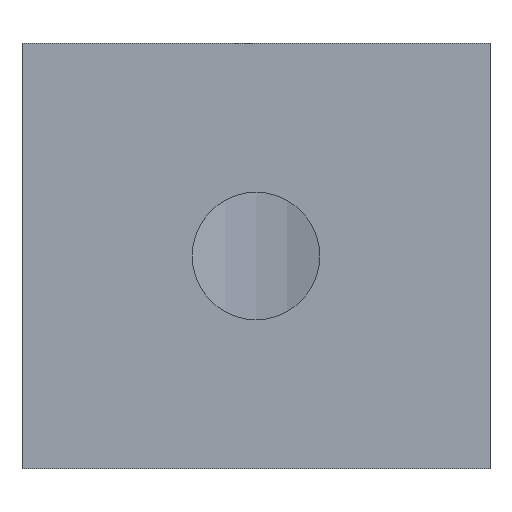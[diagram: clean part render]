
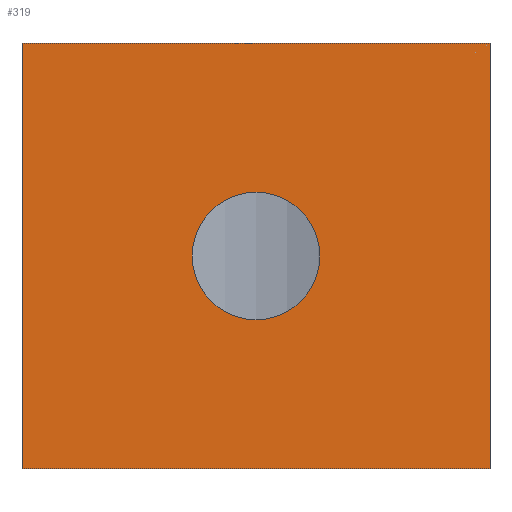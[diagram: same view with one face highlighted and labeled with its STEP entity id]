
A CAD part, front view. The second image highlights one B-rep face of the part: STEP entity #319.
In plain terms, the highlighted planar face has unit normal (0, -1, 0).
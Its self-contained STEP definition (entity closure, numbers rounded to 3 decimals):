
#19=FACE_BOUND('',#59,.T.);
#23=CIRCLE('',#352,3.);
#39=FACE_OUTER_BOUND('',#58,.T.);
#58=EDGE_LOOP('',(#272,#273,#274,#275));
#59=EDGE_LOOP('',(#276));
#93=LINE('',#524,#127);
#94=LINE('',#527,#128);
#95=LINE('',#529,#129);
#96=LINE('',#530,#130);
#127=VECTOR('',#434,10.);
#128=VECTOR('',#437,10.);
#129=VECTOR('',#438,10.);
#130=VECTOR('',#439,10.);
#154=VERTEX_POINT('',#501);
#161=VERTEX_POINT('',#520);
#162=VERTEX_POINT('',#522);
#163=VERTEX_POINT('',#526);
#164=VERTEX_POINT('',#528);
#190=EDGE_CURVE('',#154,#154,#23,.T.);
#201=EDGE_CURVE('',#161,#162,#93,.T.);
#202=EDGE_CURVE('',#163,#161,#94,.T.);
#203=EDGE_CURVE('',#164,#162,#95,.T.);
#204=EDGE_CURVE('',#163,#164,#96,.T.);
#272=ORIENTED_EDGE('',*,*,#202,.T.);
#273=ORIENTED_EDGE('',*,*,#201,.T.);
#274=ORIENTED_EDGE('',*,*,#203,.F.);
#275=ORIENTED_EDGE('',*,*,#204,.F.);
#276=ORIENTED_EDGE('',*,*,#190,.T.);
#302=PLANE('',#358);
#319=ADVANCED_FACE('',(#39,#19),#302,.T.);
#352=AXIS2_PLACEMENT_3D('',#502,#414,#415);
#358=AXIS2_PLACEMENT_3D('',#525,#435,#436);
#414=DIRECTION('center_axis',(0.,1.,0.));
#415=DIRECTION('ref_axis',(1.,0.,0.));
#434=DIRECTION('',(0.,0.,1.));
#435=DIRECTION('center_axis',(0.,-1.,0.));
#436=DIRECTION('ref_axis',(1.,0.,0.));
#437=DIRECTION('',(1.,0.,0.));
#438=DIRECTION('',(1.,0.,0.));
#439=DIRECTION('',(0.,0.,1.));
#501=CARTESIAN_POINT('',(8.,0.,10.));
#502=CARTESIAN_POINT('Origin',(11.,0.,10.));
#520=CARTESIAN_POINT('',(22.,0.,0.));
#522=CARTESIAN_POINT('',(22.,0.,20.));
#524=CARTESIAN_POINT('',(22.,0.,0.));
#525=CARTESIAN_POINT('Origin',(0.,0.,0.));
#526=CARTESIAN_POINT('',(0.,0.,0.));
#527=CARTESIAN_POINT('',(0.,0.,0.));
#528=CARTESIAN_POINT('',(0.,0.,20.));
#529=CARTESIAN_POINT('',(0.,0.,20.));
#530=CARTESIAN_POINT('',(0.,0.,0.));
